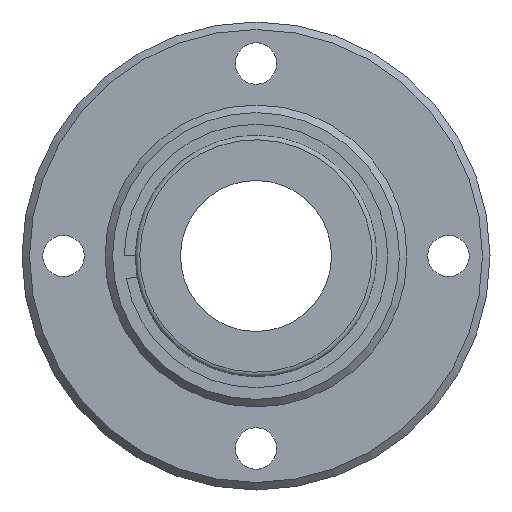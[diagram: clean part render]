
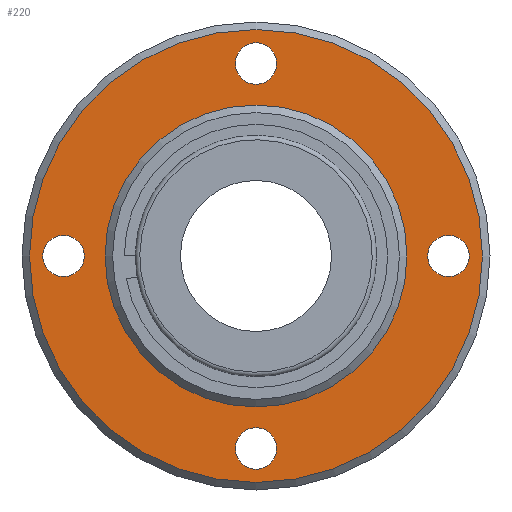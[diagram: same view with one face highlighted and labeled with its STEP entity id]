
A CAD part, left-side view. The second image highlights one B-rep face of the part: STEP entity #220.
In plain terms, the highlighted planar face has unit normal (-1, 0, 0).
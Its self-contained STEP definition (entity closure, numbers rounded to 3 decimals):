
#220=ADVANCED_FACE('',(#265,#266,#267,#268,#269,#270),#271,.F.);
#265=FACE_BOUND('',#387,.T.);
#266=FACE_BOUND('',#388,.T.);
#267=FACE_BOUND('',#389,.T.);
#268=FACE_BOUND('',#390,.T.);
#269=FACE_OUTER_BOUND('',#391,.T.);
#270=FACE_BOUND('',#392,.T.);
#271=PLANE('',#393);
#387=EDGE_LOOP('',(#511));
#388=EDGE_LOOP('',(#512));
#389=EDGE_LOOP('',(#513));
#390=EDGE_LOOP('',(#514));
#391=EDGE_LOOP('',(#515));
#392=EDGE_LOOP('',(#516));
#393=AXIS2_PLACEMENT_3D('',#517,#518,#519);
#511=ORIENTED_EDGE('',*,*,#749,.T.);
#512=ORIENTED_EDGE('',*,*,#750,.T.);
#513=ORIENTED_EDGE('',*,*,#751,.T.);
#514=ORIENTED_EDGE('',*,*,#752,.T.);
#515=ORIENTED_EDGE('',*,*,#753,.F.);
#516=ORIENTED_EDGE('',*,*,#754,.T.);
#517=CARTESIAN_POINT('',(-5.0,0.0,20.0));
#518=DIRECTION('',(1.0,0.0,0.0));
#519=DIRECTION('',(0.0,1.0,0.0));
#749=EDGE_CURVE('',#808,#808,#809,.T.);
#750=EDGE_CURVE('',#810,#810,#811,.T.);
#751=EDGE_CURVE('',#812,#812,#813,.T.);
#752=EDGE_CURVE('',#814,#814,#815,.T.);
#753=EDGE_CURVE('',#816,#816,#817,.T.);
#754=EDGE_CURVE('',#818,#818,#819,.T.);
#808=VERTEX_POINT('',#916);
#809=CIRCLE('',#917,2.75);
#810=VERTEX_POINT('',#918);
#811=CIRCLE('',#919,2.75);
#812=VERTEX_POINT('',#920);
#813=CIRCLE('',#921,2.75);
#814=VERTEX_POINT('',#922);
#815=CIRCLE('',#923,2.75);
#816=VERTEX_POINT('',#924);
#817=CIRCLE('',#925,30.0);
#818=VERTEX_POINT('',#926);
#819=CIRCLE('',#927,20.0);
#916=CARTESIAN_POINT('',(-5.0,-22.75,0.0));
#917=AXIS2_PLACEMENT_3D('',#1041,#1042,#1043);
#918=CARTESIAN_POINT('',(-5.0,2.75,25.5));
#919=AXIS2_PLACEMENT_3D('',#1044,#1045,#1046);
#920=CARTESIAN_POINT('',(-5.0,28.25,0.0));
#921=AXIS2_PLACEMENT_3D('',#1047,#1048,#1049);
#922=CARTESIAN_POINT('',(-5.0,2.75,-25.5));
#923=AXIS2_PLACEMENT_3D('',#1050,#1051,#1052);
#924=CARTESIAN_POINT('',(-5.0,30.0,0.0));
#925=AXIS2_PLACEMENT_3D('',#1053,#1054,#1055);
#926=CARTESIAN_POINT('',(-5.0,20.0,0.0));
#927=AXIS2_PLACEMENT_3D('',#1056,#1057,#1058);
#1041=CARTESIAN_POINT('',(-5.0,-25.5,0.0));
#1042=DIRECTION('',(1.0,0.0,0.0));
#1043=DIRECTION('',(0.0,1.0,0.0));
#1044=CARTESIAN_POINT('',(-5.0,0.0,25.5));
#1045=DIRECTION('',(1.0,0.0,0.0));
#1046=DIRECTION('',(0.0,1.0,0.0));
#1047=CARTESIAN_POINT('',(-5.0,25.5,0.0));
#1048=DIRECTION('',(1.0,0.0,0.0));
#1049=DIRECTION('',(0.0,1.0,0.0));
#1050=CARTESIAN_POINT('',(-5.0,0.0,-25.5));
#1051=DIRECTION('',(1.0,0.0,0.0));
#1052=DIRECTION('',(0.0,1.0,0.0));
#1053=CARTESIAN_POINT('',(-5.0,0.0,0.0));
#1054=DIRECTION('',(1.0,0.0,0.0));
#1055=DIRECTION('',(0.0,1.0,0.0));
#1056=CARTESIAN_POINT('',(-5.0,0.0,0.0));
#1057=DIRECTION('',(1.0,0.0,0.0));
#1058=DIRECTION('',(0.0,1.0,0.0));
